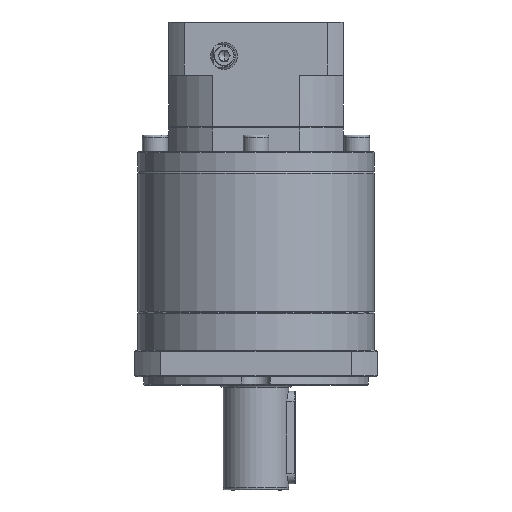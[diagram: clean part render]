
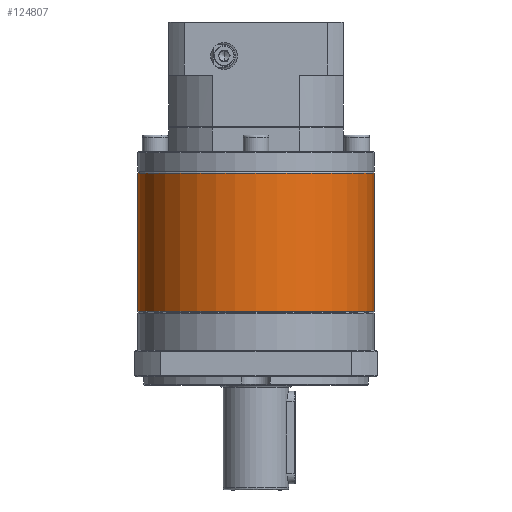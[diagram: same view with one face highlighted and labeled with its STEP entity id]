
A CAD part, front view. The second image highlights one B-rep face of the part: STEP entity #124807.
In plain terms, the highlighted cylindrical face has radius 57.5 mm (diameter 115 mm), a partial arc.
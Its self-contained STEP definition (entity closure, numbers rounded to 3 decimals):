
#636 = EDGE_CURVE ( 'NONE', #22623, #87889, #18131, .T. ) ;
#1987 = AXIS2_PLACEMENT_3D ( 'NONE', #28355, #129045, #88160 ) ;
#2262 = FACE_OUTER_BOUND ( 'NONE', #34632, .T. ) ;
#3022 = EDGE_CURVE ( 'NONE', #93711, #102997, #33081, .T. ) ;
#3313 = DIRECTION ( 'NONE',  ( -1., 0., 0. ) ) ;
#3700 = EDGE_CURVE ( 'NONE', #22623, #92854, #65950, .T. ) ;
#12955 = CARTESIAN_POINT ( 'NONE',  ( 60.929, -33.672, -95.201 ) ) ;
#14722 = CARTESIAN_POINT ( 'NONE',  ( 60.929, 23.828, -94.701 ) ) ;
#18131 = CIRCLE ( 'NONE', #36765, 57.5 ) ;
#20797 = CARTESIAN_POINT ( 'NONE',  ( 60.929, 23.828, -162.412 ) ) ;
#21361 = CARTESIAN_POINT ( 'NONE',  ( 118.429, 23.828, -95.201 ) ) ;
#22623 = VERTEX_POINT ( 'NONE', #21361 ) ;
#28355 = CARTESIAN_POINT ( 'NONE',  ( 60.929, 23.828, -95.201 ) ) ;
#33081 = LINE ( 'NONE', #106913, #117927 ) ;
#33132 = DIRECTION ( 'NONE',  ( -1., 0., 0. ) ) ;
#33708 = ORIENTED_EDGE ( 'NONE', *, *, #3022, .T. ) ;
#34632 = EDGE_LOOP ( 'NONE', ( #51973, #85775, #77159, #33708, #40572 ) ) ;
#36765 = AXIS2_PLACEMENT_3D ( 'NONE', #115274, #123616, #3313 ) ;
#40572 = ORIENTED_EDGE ( 'NONE', *, *, #55290, .T. ) ;
#45590 = CIRCLE ( 'NONE', #1987, 57.5 ) ;
#46475 = EDGE_CURVE ( 'NONE', #87889, #93711, #45590, .T. ) ;
#48714 = AXIS2_PLACEMENT_3D ( 'NONE', #20797, #52056, #33132 ) ;
#51732 = DIRECTION ( 'NONE',  ( 0., 0., -1. ) ) ;
#51973 = ORIENTED_EDGE ( 'NONE', *, *, #3700, .F. ) ;
#52056 = DIRECTION ( 'NONE',  ( 0., 0., 1. ) ) ;
#55290 = EDGE_CURVE ( 'NONE', #102997, #92854, #98190, .T. ) ;
#56985 = CARTESIAN_POINT ( 'NONE',  ( 3.429, 23.828, -95.201 ) ) ;
#65950 = LINE ( 'NONE', #72358, #87927 ) ;
#66521 = DIRECTION ( 'NONE',  ( 0., 0., -1. ) ) ;
#72358 = CARTESIAN_POINT ( 'NONE',  ( 118.429, 23.828, -94.701 ) ) ;
#77159 = ORIENTED_EDGE ( 'NONE', *, *, #46475, .T. ) ;
#85775 = ORIENTED_EDGE ( 'NONE', *, *, #636, .T. ) ;
#87889 = VERTEX_POINT ( 'NONE', #12955 ) ;
#87927 = VECTOR ( 'NONE', #51732, 1000. ) ;
#87929 = CARTESIAN_POINT ( 'NONE',  ( 118.429, 23.828, -162.412 ) ) ;
#88160 = DIRECTION ( 'NONE',  ( -1., 0., 0. ) ) ;
#88846 = AXIS2_PLACEMENT_3D ( 'NONE', #14722, #95545, #105644 ) ;
#92854 = VERTEX_POINT ( 'NONE', #87929 ) ;
#92858 = CARTESIAN_POINT ( 'NONE',  ( 3.429, 23.828, -162.412 ) ) ;
#93711 = VERTEX_POINT ( 'NONE', #56985 ) ;
#95077 = CYLINDRICAL_SURFACE ( 'NONE', #88846, 57.5 ) ;
#95545 = DIRECTION ( 'NONE',  ( 0., 0., -1. ) ) ;
#98190 = CIRCLE ( 'NONE', #48714, 57.5 ) ;
#102997 = VERTEX_POINT ( 'NONE', #92858 ) ;
#105644 = DIRECTION ( 'NONE',  ( -1., 0., 0. ) ) ;
#106913 = CARTESIAN_POINT ( 'NONE',  ( 3.429, 23.828, -94.701 ) ) ;
#115274 = CARTESIAN_POINT ( 'NONE',  ( 60.929, 23.828, -95.201 ) ) ;
#117927 = VECTOR ( 'NONE', #66521, 1000. ) ;
#123616 = DIRECTION ( 'NONE',  ( 0., 0., -1. ) ) ;
#124807 = ADVANCED_FACE ( 'NONE', ( #2262 ), #95077, .T. ) ;
#129045 = DIRECTION ( 'NONE',  ( 0., 0., -1. ) ) ;
